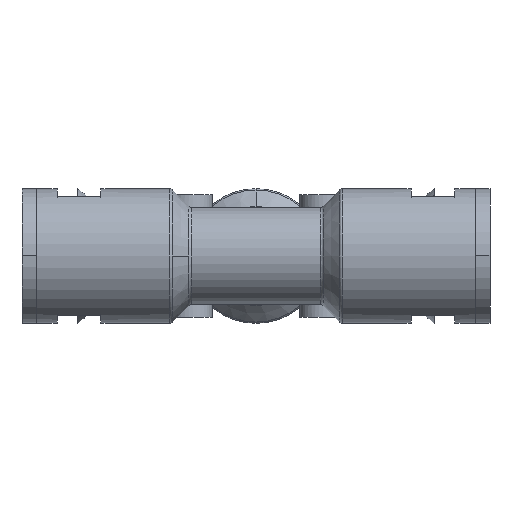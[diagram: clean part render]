
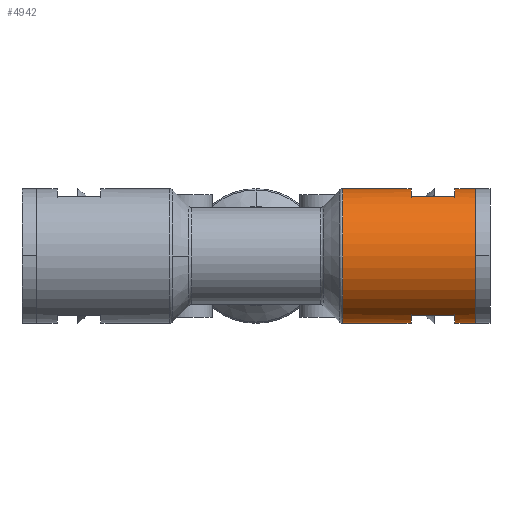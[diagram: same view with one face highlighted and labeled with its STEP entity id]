
A CAD part, front view. The second image highlights one B-rep face of the part: STEP entity #4942.
In plain terms, the highlighted cylindrical face has radius 11.5 mm (diameter 23 mm), a partial arc.
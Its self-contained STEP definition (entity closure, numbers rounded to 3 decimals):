
#49 = DIRECTION ( 'NONE',  ( 0., 0., -1. ) ) ;
#78 = ORIENTED_EDGE ( 'NONE', *, *, #2454, .T. ) ;
#251 = LINE ( 'NONE', #4073, #4566 ) ;
#287 = CARTESIAN_POINT ( 'NONE',  ( 34., 0., 11.5 ) ) ;
#296 = VECTOR ( 'NONE', #2046, 1000. ) ;
#297 = CARTESIAN_POINT ( 'NONE',  ( 14.794, 0., 0. ) ) ;
#409 = LINE ( 'NONE', #7239, #3224 ) ;
#445 = AXIS2_PLACEMENT_3D ( 'NONE', #2539, #857, #5906 ) ;
#513 = CARTESIAN_POINT ( 'NONE',  ( 37.5, 0., 11.5 ) ) ;
#541 = CARTESIAN_POINT ( 'NONE',  ( 34., 0., 0. ) ) ;
#580 = EDGE_CURVE ( 'NONE', #814, #5135, #2839, .T. ) ;
#689 = ORIENTED_EDGE ( 'NONE', *, *, #5041, .T. ) ;
#713 = VERTEX_POINT ( 'NONE', #3818 ) ;
#740 = EDGE_CURVE ( 'NONE', #713, #4992, #2608, .T. ) ;
#814 = VERTEX_POINT ( 'NONE', #4153 ) ;
#843 = EDGE_CURVE ( 'NONE', #2265, #6891, #933, .T. ) ;
#857 = DIRECTION ( 'NONE',  ( 1., 0., 0. ) ) ;
#876 = EDGE_CURVE ( 'NONE', #6891, #5504, #3910, .T. ) ;
#933 = CIRCLE ( 'NONE', #3383, 11.5 ) ;
#1140 = CARTESIAN_POINT ( 'NONE',  ( 26.5, 0., -11.5 ) ) ;
#1411 = DIRECTION ( 'NONE',  ( 1., 0., 0. ) ) ;
#1470 = ORIENTED_EDGE ( 'NONE', *, *, #3191, .F. ) ;
#1499 = ORIENTED_EDGE ( 'NONE', *, *, #1664, .T. ) ;
#1506 = AXIS2_PLACEMENT_3D ( 'NONE', #3114, #7072, #6462 ) ;
#1558 = CARTESIAN_POINT ( 'NONE',  ( 37.5, 0., 0. ) ) ;
#1663 = ORIENTED_EDGE ( 'NONE', *, *, #843, .T. ) ;
#1664 = EDGE_CURVE ( 'NONE', #6647, #3609, #6121, .T. ) ;
#1687 = CARTESIAN_POINT ( 'NONE',  ( 88.99, 0., -11.5 ) ) ;
#1695 = AXIS2_PLACEMENT_3D ( 'NONE', #541, #5732, #49 ) ;
#1798 = LINE ( 'NONE', #3712, #296 ) ;
#1856 = DIRECTION ( 'NONE',  ( 1., 0., 0. ) ) ;
#1879 = DIRECTION ( 'NONE',  ( 0., 0., -1. ) ) ;
#2046 = DIRECTION ( 'NONE',  ( 1., 0., 0. ) ) ;
#2121 = CARTESIAN_POINT ( 'NONE',  ( 34., -5.5, 10.1 ) ) ;
#2142 = DIRECTION ( 'NONE',  ( 0., 0., -1. ) ) ;
#2265 = VERTEX_POINT ( 'NONE', #5030 ) ;
#2378 = ORIENTED_EDGE ( 'NONE', *, *, #876, .T. ) ;
#2454 = EDGE_CURVE ( 'NONE', #2904, #5098, #3718, .T. ) ;
#2539 = CARTESIAN_POINT ( 'NONE',  ( 88.99, 0., 0. ) ) ;
#2546 = CARTESIAN_POINT ( 'NONE',  ( 88.99, 0., -11.5 ) ) ;
#2608 = CIRCLE ( 'NONE', #1506, 11.5 ) ;
#2627 = DIRECTION ( 'NONE',  ( -1., 0., 0. ) ) ;
#2713 = CARTESIAN_POINT ( 'NONE',  ( 26.5, 0., 0. ) ) ;
#2839 = CIRCLE ( 'NONE', #3163, 11.5 ) ;
#2904 = VERTEX_POINT ( 'NONE', #3423 ) ;
#3114 = CARTESIAN_POINT ( 'NONE',  ( 34., 0., 0. ) ) ;
#3144 = EDGE_CURVE ( 'NONE', #3609, #2904, #3638, .T. ) ;
#3155 = CYLINDRICAL_SURFACE ( 'NONE', #445, 11.5 ) ;
#3163 = AXIS2_PLACEMENT_3D ( 'NONE', #1558, #2627, #1879 ) ;
#3191 = EDGE_CURVE ( 'NONE', #6647, #5135, #1798, .T. ) ;
#3224 = VECTOR ( 'NONE', #6237, 1000. ) ;
#3241 = DIRECTION ( 'NONE',  ( -1., 0., 0. ) ) ;
#3268 = DIRECTION ( 'NONE',  ( 0., 0., -1. ) ) ;
#3372 = LINE ( 'NONE', #1687, #6025 ) ;
#3383 = AXIS2_PLACEMENT_3D ( 'NONE', #297, #1411, #4769 ) ;
#3423 = CARTESIAN_POINT ( 'NONE',  ( 26.5, -5.5, 10.1 ) ) ;
#3464 = VECTOR ( 'NONE', #5929, 1000. ) ;
#3609 = VERTEX_POINT ( 'NONE', #2121 ) ;
#3638 = LINE ( 'NONE', #5378, #3464 ) ;
#3712 = CARTESIAN_POINT ( 'NONE',  ( 88.99, 0., 11.5 ) ) ;
#3718 = CIRCLE ( 'NONE', #6198, 11.5 ) ;
#3781 = ORIENTED_EDGE ( 'NONE', *, *, #740, .T. ) ;
#3818 = CARTESIAN_POINT ( 'NONE',  ( 34., -5.5, -10.1 ) ) ;
#3910 = LINE ( 'NONE', #2546, #4888 ) ;
#3983 = VERTEX_POINT ( 'NONE', #6104 ) ;
#4073 = CARTESIAN_POINT ( 'NONE',  ( 88.99, -5.5, -10.1 ) ) ;
#4153 = CARTESIAN_POINT ( 'NONE',  ( 37.5, 0., -11.5 ) ) ;
#4207 = AXIS2_PLACEMENT_3D ( 'NONE', #2713, #6674, #3268 ) ;
#4321 = ORIENTED_EDGE ( 'NONE', *, *, #4776, .T. ) ;
#4413 = EDGE_CURVE ( 'NONE', #4992, #814, #3372, .T. ) ;
#4566 = VECTOR ( 'NONE', #1856, 1000. ) ;
#4579 = ORIENTED_EDGE ( 'NONE', *, *, #4413, .T. ) ;
#4769 = DIRECTION ( 'NONE',  ( 0., 0., -1. ) ) ;
#4776 = EDGE_CURVE ( 'NONE', #3983, #713, #251, .T. ) ;
#4821 = FACE_OUTER_BOUND ( 'NONE', #5647, .T. ) ;
#4847 = DIRECTION ( 'NONE',  ( 1., 0., 0. ) ) ;
#4888 = VECTOR ( 'NONE', #4847, 1000. ) ;
#4942 = ADVANCED_FACE ( 'NONE', ( #4821 ), #3155, .T. ) ;
#4992 = VERTEX_POINT ( 'NONE', #5981 ) ;
#5030 = CARTESIAN_POINT ( 'NONE',  ( 14.794, 0., 11.5 ) ) ;
#5037 = ORIENTED_EDGE ( 'NONE', *, *, #3144, .T. ) ;
#5041 = EDGE_CURVE ( 'NONE', #5504, #3983, #7319, .T. ) ;
#5098 = VERTEX_POINT ( 'NONE', #7278 ) ;
#5135 = VERTEX_POINT ( 'NONE', #513 ) ;
#5346 = ORIENTED_EDGE ( 'NONE', *, *, #6426, .F. ) ;
#5378 = CARTESIAN_POINT ( 'NONE',  ( 88.99, -5.5, 10.1 ) ) ;
#5504 = VERTEX_POINT ( 'NONE', #1140 ) ;
#5633 = DIRECTION ( 'NONE',  ( 1., 0., 0. ) ) ;
#5647 = EDGE_LOOP ( 'NONE', ( #5346, #1663, #2378, #689, #4321, #3781, #4579, #5780, #1470, #1499, #5037, #78 ) ) ;
#5708 = CARTESIAN_POINT ( 'NONE',  ( 14.794, 0., -11.5 ) ) ;
#5732 = DIRECTION ( 'NONE',  ( 1., 0., 0. ) ) ;
#5780 = ORIENTED_EDGE ( 'NONE', *, *, #580, .T. ) ;
#5906 = DIRECTION ( 'NONE',  ( 0., 0., -1. ) ) ;
#5929 = DIRECTION ( 'NONE',  ( -1., 0., 0. ) ) ;
#5981 = CARTESIAN_POINT ( 'NONE',  ( 34., 0., -11.5 ) ) ;
#6023 = CARTESIAN_POINT ( 'NONE',  ( 26.5, 0., 0. ) ) ;
#6025 = VECTOR ( 'NONE', #5633, 1000. ) ;
#6104 = CARTESIAN_POINT ( 'NONE',  ( 26.5, -5.5, -10.1 ) ) ;
#6121 = CIRCLE ( 'NONE', #1695, 11.5 ) ;
#6198 = AXIS2_PLACEMENT_3D ( 'NONE', #6023, #3241, #2142 ) ;
#6237 = DIRECTION ( 'NONE',  ( 1., 0., 0. ) ) ;
#6426 = EDGE_CURVE ( 'NONE', #2265, #5098, #409, .T. ) ;
#6462 = DIRECTION ( 'NONE',  ( 0., 0., -1. ) ) ;
#6647 = VERTEX_POINT ( 'NONE', #287 ) ;
#6674 = DIRECTION ( 'NONE',  ( -1., 0., 0. ) ) ;
#6891 = VERTEX_POINT ( 'NONE', #5708 ) ;
#7072 = DIRECTION ( 'NONE',  ( 1., 0., 0. ) ) ;
#7239 = CARTESIAN_POINT ( 'NONE',  ( 88.99, 0., 11.5 ) ) ;
#7278 = CARTESIAN_POINT ( 'NONE',  ( 26.5, 0., 11.5 ) ) ;
#7319 = CIRCLE ( 'NONE', #4207, 11.5 ) ;
